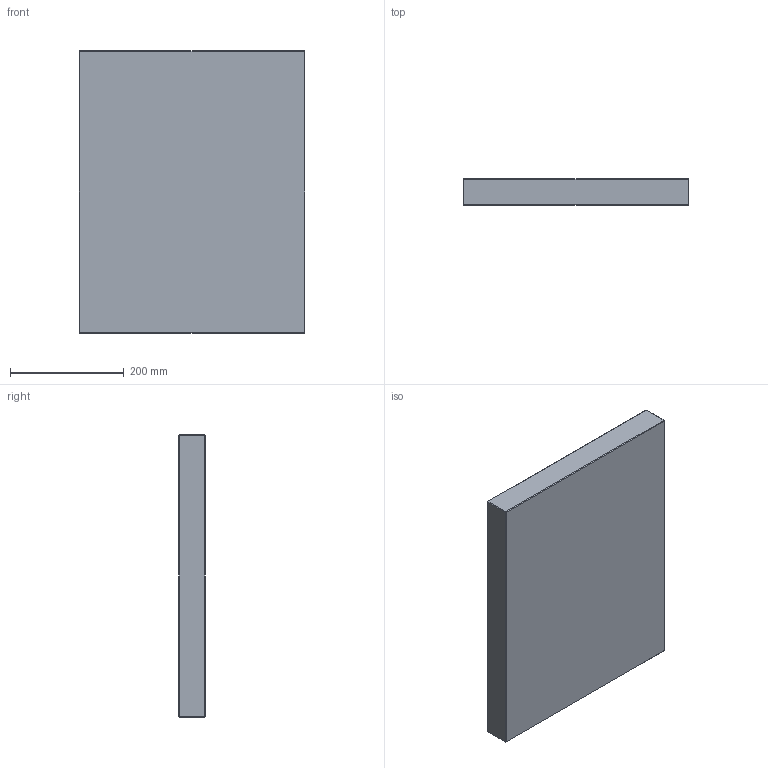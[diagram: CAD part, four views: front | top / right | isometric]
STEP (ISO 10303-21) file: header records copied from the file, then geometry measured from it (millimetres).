
FILE_DESCRIPTION (( 'STEP AP214' ), '1' );
FILE_NAME ('PC-P-396x496x46.STEP', '2020-04-01T10:40:11', ( 'August' ), ( '' ), 'SwSTEP 2.0', 'SolidWorks 2018', '' );
FILE_SCHEMA (( 'AUTOMOTIVE_DESIGN' ));
Length unit declared in the file: millimetre
Products named in the file (1): PC-P-396x496x46
Bounding box: 396 x 46 x 496 mm (x, y, z)
Volume: 9033265.3 mm3; surface area: 472695.1 mm2
Topology: 1 solids, 1 shells, 26 faces, 48 edges, 24 vertices
Faces by surface type: plane 26
Entity records: 634 total; most frequent: DIRECTION 102, CARTESIAN_POINT 99, ORIENTED_EDGE 96, LINE 48, EDGE_CURVE 48, VECTOR 48, AXIS2_PLACEMENT_3D 27, PLANE 26
